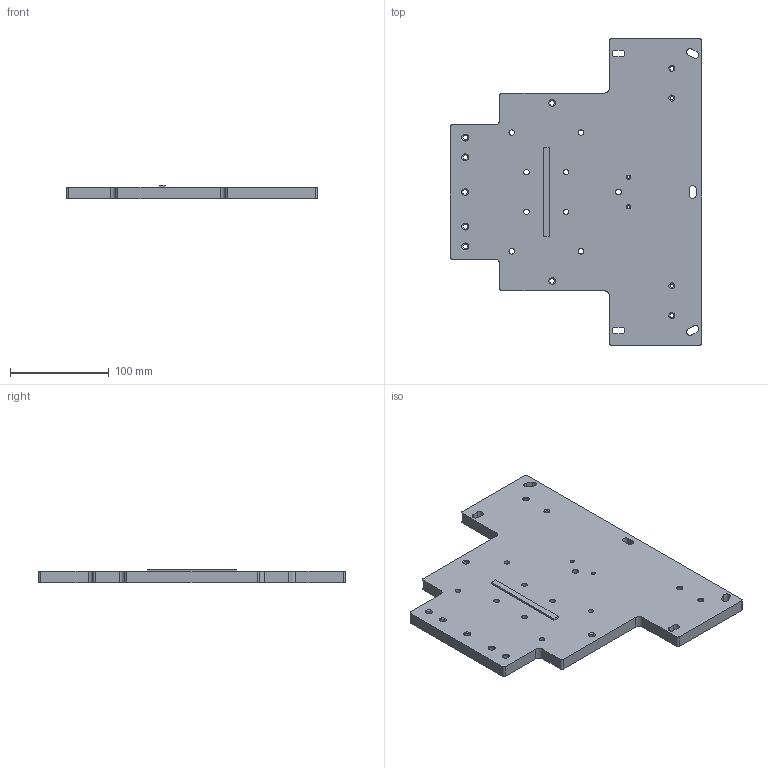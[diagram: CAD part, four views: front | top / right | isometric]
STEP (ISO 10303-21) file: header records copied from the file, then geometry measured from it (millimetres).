
FILE_DESCRIPTION(('STEP AP203'), '1');
FILE_NAME('ÒÏÏÔ1801.01.07.00.001 - Ïëèòà', '', ('UNSPECIFIED'), ('UNSPECIFIED'), 'C3D Converter', 'C3D Toolkit', '');
FILE_SCHEMA(('CONFIG_CONTROL_DESIGN'));
Length unit declared in the file: millimetre
Products named in the file (1): ТППФ1801.01.07.00.001
Bounding box: 254 x 310 x 14 mm (x, y, z)
Volume: 682509.9 mm3; surface area: 134374.9 mm2
Topology: 1 solids, 1 shells, 115 faces, 286 edges, 182 vertices
Faces by surface type: cylinder 52, plane 37, cone 26
Full cylindrical faces by diameter (mm): 3.242 x2, 4.134 x4, 4.917 x7, 5.5 x8, 6 x1, 10 x8
Entity records: 4230 total; most frequent: DIRECTION 592, CARTESIAN_POINT 528, ORIENTED_EDGE 460, AXIS2_PLACEMENT_3D 246, EDGE_LOOP 234, EDGE_CURVE 230, VERTEX_POINT 182, CIRCLE 130
